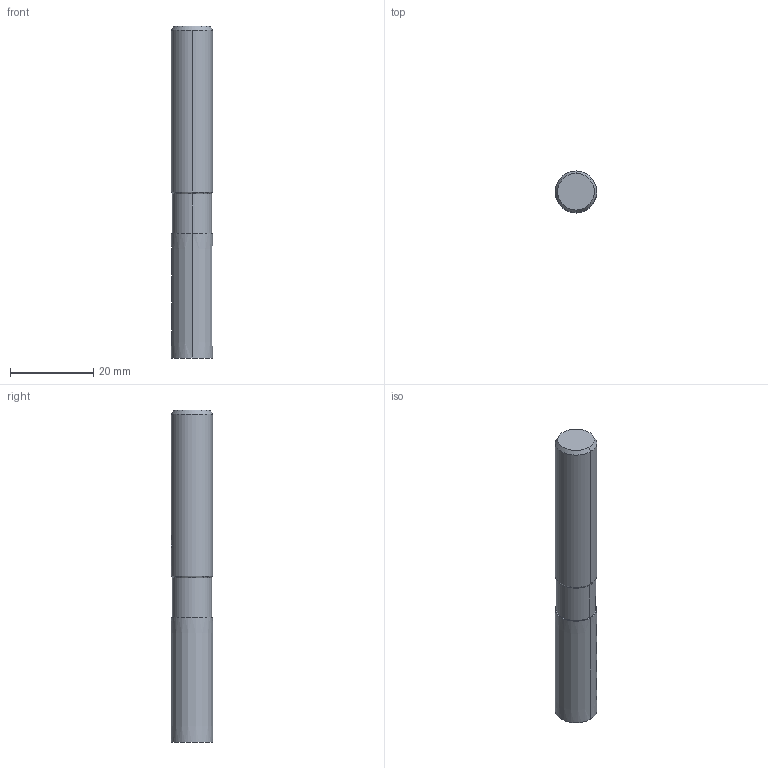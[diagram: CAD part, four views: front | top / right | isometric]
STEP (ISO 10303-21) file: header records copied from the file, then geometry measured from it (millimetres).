
FILE_DESCRIPTION(('no description'),'unknown implementation level');
FILE_NAME('solidcoAf0R0b3zU8sqpJPygySMvbJ0c_1.STP',' ',('CIMSOURCE GmbH'),('CADClick - KiM GmbH - www.kimweb.de'),'unknown preprocess','ACIS','unknown authorization');
FILE_SCHEMA(('automotive_design'));
Length unit declared in the file: millimetre
Products named in the file (2): NOCUT; CUT
Bounding box: 10 x 10 x 80 mm (x, y, z)
Volume: 6199 mm3; surface area: 3749.7 mm2
Topology: 2 solids, 2 shells, 41 faces, 93 edges, 58 vertices
Faces by surface type: cylinder 16, cone 14, plane 11
Entity records: 2522 total; most frequent: CARTESIAN_POINT 448, DIRECTION 211, STYLED_ITEM 194, PRESENTATION_STYLE_ASSIGNMENT 194, COLOUR_RGB 194, ORIENTED_EDGE 186, EDGE_CURVE 93, CURVE_STYLE 93
